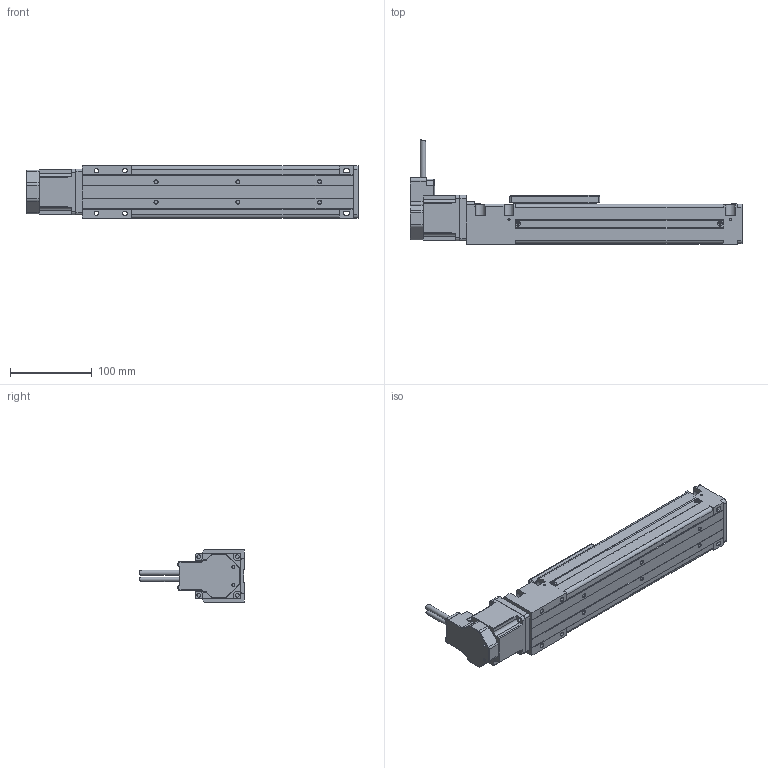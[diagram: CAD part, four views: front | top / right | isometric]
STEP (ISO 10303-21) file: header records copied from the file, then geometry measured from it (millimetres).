
FILE_DESCRIPTION(/* description */ ('Alibre Inc.'),/* implementation_level */ '2;1');
FILE_NAME(/* name */ 'export0',/* time_stamp */ '2010-04-01T10:39:07-04:00',/* author */ (''),/* organization */ (''),/* preprocessor_version */ 'ST-DEVELOPER v10',/* originating_system */ 'Alibre',/* authorisation */ '');
FILE_SCHEMA (('CONFIG_CONTROL_DESIGN'));
Length unit declared in the file: millimetre
Products named in the file (6): 1; 2; ID_1; ID_2; ID_3
Bounding box: 406 x 127.68 x 64 mm (x, y, z)
Volume: 610271.3 mm3; surface area: 222397 mm2
Topology: 4 solids, 4 shells, 796 faces, 2104 edges, 1322 vertices
Faces by surface type: plane 490, cylinder 204, cone 70, torus 28, sphere 4
Full cylindrical faces by diameter (mm): 3.5 x2, 4.5 x4, 5.5 x1, 6.5 x1, 8 x1, 38.13 x1, 38.15 x1
Entity records: 24478 total; most frequent: CARTESIAN_POINT 4466, ORIENTED_EDGE 4140, DIRECTION 3646, EDGE_CURVE 2070, VECTOR 1510, LINE 1510, AXIS2_PLACEMENT_3D 1323, VERTEX_POINT 1315
